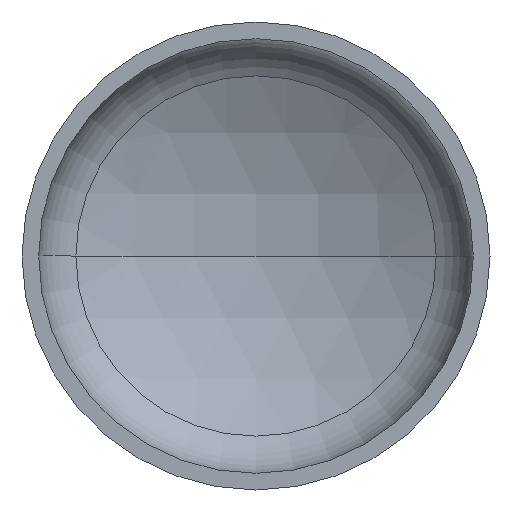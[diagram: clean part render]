
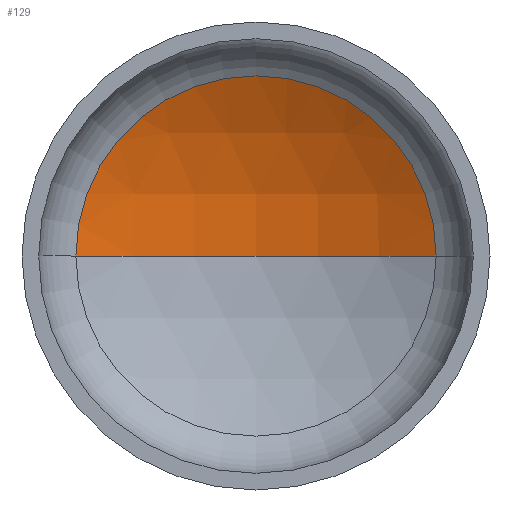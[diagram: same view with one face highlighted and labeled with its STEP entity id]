
A CAD part, front view. The second image highlights one B-rep face of the part: STEP entity #129.
In plain terms, the highlighted spherical face has radius 2560 mm.
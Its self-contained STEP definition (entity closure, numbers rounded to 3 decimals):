
#10 = EDGE_LOOP ( 'NONE', ( #41, #205, #97 ) ) ;
#16 = VERTEX_POINT ( 'NONE', #286 ) ;
#41 = ORIENTED_EDGE ( 'NONE', *, *, #371, .F. ) ;
#57 = VERTEX_POINT ( 'NONE', #213 ) ;
#79 = AXIS2_PLACEMENT_3D ( 'NONE', #220, #397, #249 ) ;
#97 = ORIENTED_EDGE ( 'NONE', *, *, #317, .T. ) ;
#100 = VERTEX_POINT ( 'NONE', #331 ) ;
#117 = CIRCLE ( 'NONE', #399, 1231.768 ) ;
#128 = FACE_OUTER_BOUND ( 'NONE', #10, .T. ) ;
#129 = ADVANCED_FACE ( 'NONE', ( #128 ), #387, .F. ) ;
#140 = CARTESIAN_POINT ( 'NONE',  ( 0., 504.55, 0. ) ) ;
#143 = AXIS2_PLACEMENT_3D ( 'NONE', #153, #155, #352 ) ;
#153 = CARTESIAN_POINT ( 'NONE',  ( 0., -1739.631, 0. ) ) ;
#155 = DIRECTION ( 'NONE',  ( 0., 0., 1. ) ) ;
#180 = CARTESIAN_POINT ( 'NONE',  ( 0., -1739.631, 0. ) ) ;
#205 = ORIENTED_EDGE ( 'NONE', *, *, #357, .T. ) ;
#213 = CARTESIAN_POINT ( 'NONE',  ( -1231.768, 504.55, 0. ) ) ;
#220 = CARTESIAN_POINT ( 'NONE',  ( 0., -1739.631, 0. ) ) ;
#249 = DIRECTION ( 'NONE',  ( -1., 0., 0. ) ) ;
#286 = CARTESIAN_POINT ( 'NONE',  ( 0., 820.369, 0. ) ) ;
#317 = EDGE_CURVE ( 'NONE', #100, #57, #117, .T. ) ;
#326 = CIRCLE ( 'NONE', #143, 2560. ) ;
#331 = CARTESIAN_POINT ( 'NONE',  ( 1231.768, 504.55, 0. ) ) ;
#342 = DIRECTION ( 'NONE',  ( -1., 0., 0. ) ) ;
#348 = DIRECTION ( 'NONE',  ( 0., 0., -1. ) ) ;
#352 = DIRECTION ( 'NONE',  ( 1., 0., 0. ) ) ;
#357 = EDGE_CURVE ( 'NONE', #16, #100, #390, .T. ) ;
#364 = DIRECTION ( 'NONE',  ( 0., -1., 0. ) ) ;
#371 = EDGE_CURVE ( 'NONE', #16, #57, #326, .T. ) ;
#387 = SPHERICAL_SURFACE ( 'NONE', #405, 2560. ) ;
#390 = CIRCLE ( 'NONE', #79, 2560. ) ;
#397 = DIRECTION ( 'NONE',  ( 0., 0., -1. ) ) ;
#399 = AXIS2_PLACEMENT_3D ( 'NONE', #140, #364, #411 ) ;
#405 = AXIS2_PLACEMENT_3D ( 'NONE', #180, #348, #342 ) ;
#411 = DIRECTION ( 'NONE',  ( 1., 0., 0. ) ) ;
